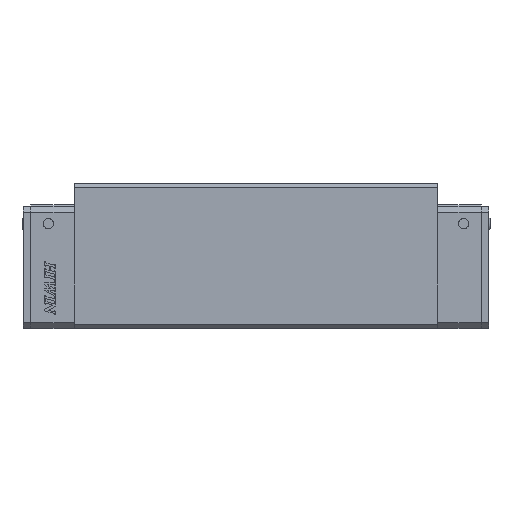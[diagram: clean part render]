
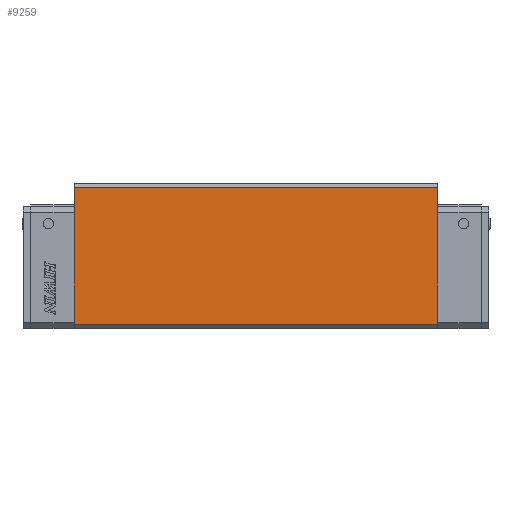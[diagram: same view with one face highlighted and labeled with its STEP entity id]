
A CAD part, top view. The second image highlights one B-rep face of the part: STEP entity #9259.
In plain terms, the highlighted planar face has unit normal (0, 0, 1) as drawn and (-1, 0, 0) by its records, which use the part's own axes.
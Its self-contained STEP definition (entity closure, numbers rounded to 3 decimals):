
#102=PLANE('',#9871);
#618=FACE_OUTER_BOUND('',#1125,.T.);
#1125=EDGE_LOOP('',(#6709,#6710,#6711,#6712));
#1935=LINE('',#13436,#3057);
#1966=LINE('',#13498,#3088);
#1981=LINE('',#13526,#3103);
#1982=LINE('',#13528,#3104);
#3057=VECTOR('',#10770,66.);
#3088=VECTOR('',#10803,66.);
#3103=VECTOR('',#10844,175.3);
#3104=VECTOR('',#10847,175.3);
#4180=VERTEX_POINT('',#13433);
#4181=VERTEX_POINT('',#13435);
#4210=VERTEX_POINT('',#13495);
#4211=VERTEX_POINT('',#13497);
#5138=EDGE_CURVE('',#4180,#4181,#1935,.T.);
#5169=EDGE_CURVE('',#4210,#4211,#1966,.T.);
#5184=EDGE_CURVE('',#4180,#4211,#1981,.T.);
#5185=EDGE_CURVE('',#4181,#4210,#1982,.T.);
#6709=ORIENTED_EDGE('',*,*,#5184,.T.);
#6710=ORIENTED_EDGE('',*,*,#5169,.F.);
#6711=ORIENTED_EDGE('',*,*,#5185,.F.);
#6712=ORIENTED_EDGE('',*,*,#5138,.F.);
#9259=ADVANCED_FACE('',(#618),#102,.T.);
#9871=AXIS2_PLACEMENT_3D('',#13527,#10845,#10846);
#10770=DIRECTION('',(0.,1.,0.));
#10803=DIRECTION('',(0.,-1.,0.));
#10844=DIRECTION('',(0.,0.,1.));
#10845=DIRECTION('center_axis',(-1.,0.,0.));
#10846=DIRECTION('ref_axis',(0.,0.,1.));
#10847=DIRECTION('',(0.,0.,1.));
#13433=CARTESIAN_POINT('',(50.311,57.486,87.65));
#13435=CARTESIAN_POINT('',(50.311,123.486,87.65));
#13436=CARTESIAN_POINT('',(50.311,57.486,87.65));
#13495=CARTESIAN_POINT('',(50.311,123.486,262.95));
#13497=CARTESIAN_POINT('',(50.311,57.486,262.95));
#13498=CARTESIAN_POINT('',(50.311,123.486,262.95));
#13526=CARTESIAN_POINT('',(50.311,57.486,87.65));
#13527=CARTESIAN_POINT('Origin',(50.311,123.486,175.3));
#13528=CARTESIAN_POINT('',(50.311,123.486,87.65));
